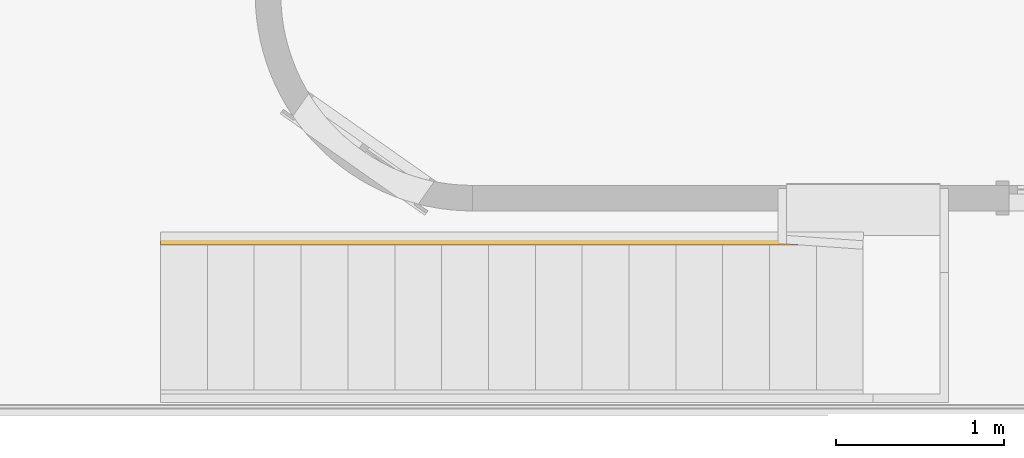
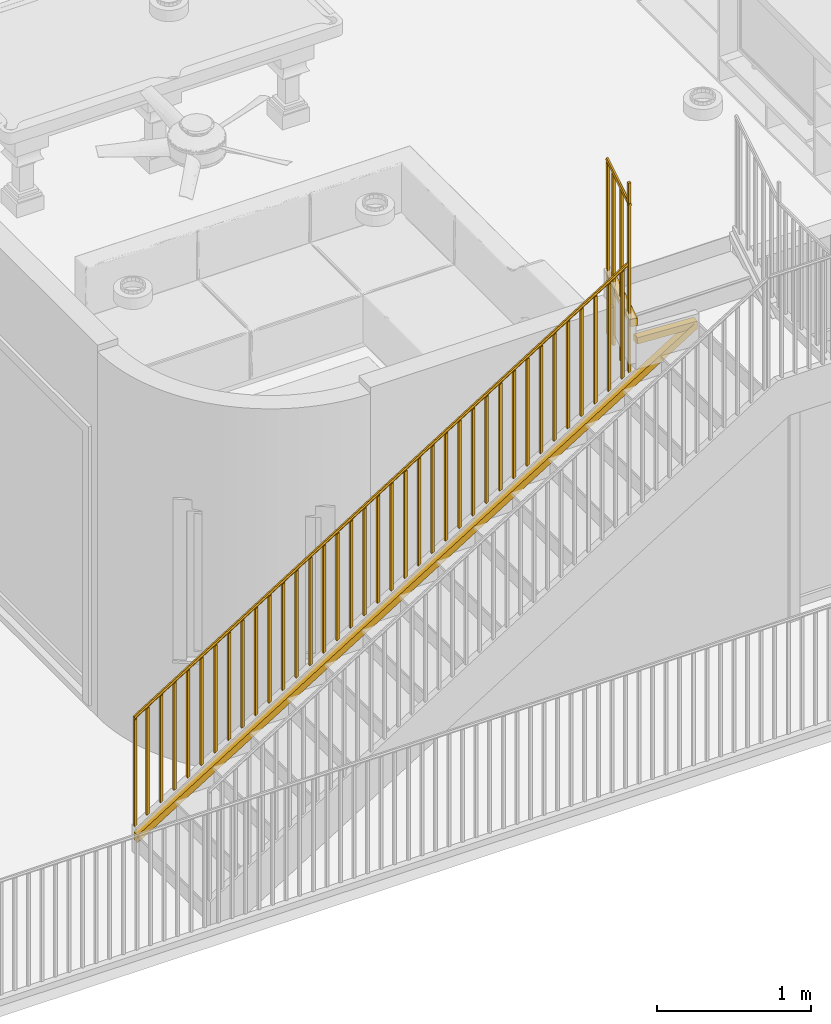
# One storey, part 10 of 21: 1 railing, 1 element without a shape of its own.
"""IFC2X3 building model written with IfcOpenShell, lengths in feet."""

from ifc_helpers import new_model, entity, si_unit, converted_unit, derived_unit, direction, frame, origin, place, context, subcontext, project, spatial, faceted_brep, element, aggregate, save


model = new_model("IFC2X3")

# Units and contexts
model_context = context("Model", 3, precision=0.0001, world=origin(), true_north=direction((6.12303176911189e-17, 1.0)))
body_context = subcontext(model_context, "Body", "Model", "MODEL_VIEW")
ifc_project = project(units=[converted_unit("LENGTHUNIT", "FOOT", entity("IfcRatioMeasure", 0.3048), si_unit("LENGTHUNIT", "METRE"), dimensions=[1, 0, 0, 0, 0, 0, 0]), converted_unit("AREAUNIT", "SQUARE FOOT", entity("IfcRatioMeasure", 0.09290304), si_unit("AREAUNIT", "SQUARE_METRE"), dimensions=[2, 0, 0, 0, 0, 0, 0]), converted_unit("VOLUMEUNIT", "CUBIC FOOT", entity("IfcRatioMeasure", 0.028316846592), si_unit("VOLUMEUNIT", "CUBIC_METRE"), dimensions=[3, 0, 0, 0, 0, 0, 0]), converted_unit("PLANEANGLEUNIT", "DEGREE", entity("IfcRatioMeasure", 0.0174532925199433), si_unit("PLANEANGLEUNIT", "RADIAN"), dimensions=[0, 0, 0, 0, 0, 0, 0]), si_unit("MASSUNIT", "GRAM", prefix="KILO"), derived_unit("MASSDENSITYUNIT", [(si_unit("MASSUNIT", "GRAM", prefix="KILO"), 1), (si_unit("LENGTHUNIT", "METRE"), -3)]), si_unit("TIMEUNIT", "SECOND"), si_unit("FREQUENCYUNIT", "HERTZ"), si_unit("THERMODYNAMICTEMPERATUREUNIT", "DEGREE_CELSIUS"), derived_unit("THERMALTRANSMITTANCEUNIT", [(si_unit("MASSUNIT", "GRAM", prefix="KILO"), 1), (si_unit("THERMODYNAMICTEMPERATUREUNIT", "KELVIN"), -1), (si_unit("TIMEUNIT", "SECOND"), -3)]), derived_unit("VOLUMETRICFLOWRATEUNIT", [(si_unit("LENGTHUNIT", "METRE"), 3), (si_unit("TIMEUNIT", "SECOND"), -1)]), si_unit("ELECTRICCURRENTUNIT", "AMPERE"), si_unit("ELECTRICVOLTAGEUNIT", "VOLT"), si_unit("POWERUNIT", "WATT"), si_unit("FORCEUNIT", "NEWTON"), si_unit("ILLUMINANCEUNIT", "LUX"), si_unit("LUMINOUSFLUXUNIT", "LUMEN"), si_unit("LUMINOUSINTENSITYUNIT", "CANDELA"), derived_unit("USERDEFINED", [(si_unit("MASSUNIT", "GRAM", prefix="KILO"), -1), (si_unit("LENGTHUNIT", "METRE"), -2), (si_unit("TIMEUNIT", "SECOND"), 3), (si_unit("LUMINOUSFLUXUNIT", "LUMEN"), 1)]), derived_unit("LINEARVELOCITYUNIT", [(si_unit("LENGTHUNIT", "METRE"), 1), (si_unit("TIMEUNIT", "SECOND"), -1)]), si_unit("PRESSUREUNIT", "PASCAL"), derived_unit("USERDEFINED", [(si_unit("LENGTHUNIT", "METRE"), -2), (si_unit("MASSUNIT", "GRAM", prefix="KILO"), 1), (si_unit("TIMEUNIT", "SECOND"), -2)])], contexts=[model_context])

# Site, building, storey
site_placement = place(None, origin())
site = spatial("IfcSite", under=ifc_project, at=site_placement, Name="表面", CompositionType="ELEMENT")
building_placement = place(site_placement, origin())
building = spatial("IfcBuilding", under=site, at=building_placement, CompositionType="ELEMENT")
storey_placement = place(building_placement, origin())
storey = spatial("IfcBuildingStorey", under=building, at=storey_placement, Name="Level 1", CompositionType="ELEMENT", Elevation=0.0)

# Stair, railing
stair_placement = place(storey_placement, origin())
stair = element("IfcStair", 1, at=stair_placement, inside=storey, Name="楼梯:7\" max riser 11\" tread", ObjectType="楼梯:7\" max riser 11\" tread", ShapeType="NOTDEFINED")
railing_placement = place(stair_placement, frame((-35.8869576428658, -14.0676063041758, 0.706570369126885)))
railing = element("IfcRailing", 2, at=railing_placement, Name="栏杆扶手:Handrail - Rectangular", ObjectType="栏杆扶手:Handrail - Rectangular", PredefinedType="NOTDEFINED", context=body_context, shape_type="Brep", body=[
    faceted_brep([(12.1354166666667, 0.802083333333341, 12.5910014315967), (12.1354166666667, 0.802083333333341, 8.16842963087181), (12.1979166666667, 0.802083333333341, 8.16842963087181), (12.1979166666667, 0.802083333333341, 12.5910014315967), (12.1354166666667, 0.864583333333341, 12.6298271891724), (12.1354166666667, 0.864583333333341, 8.16842963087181), (12.1979166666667, 0.864583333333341, 12.6298271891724), (12.1979166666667, 0.864583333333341, 8.16842963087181)], [[[0, 1, 2, 3]], [[4, 5, 1, 0]], [[6, 7, 5, 4]], [[3, 2, 7, 6]], [[3, 6, 4, 0]], [[1, 5, 7, 2]]]),
    faceted_brep([(12.1354166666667, 0.468750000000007, 12.383930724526), (12.1354166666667, 0.468750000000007, 7.96135892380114), (12.1979166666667, 0.468750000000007, 7.96135892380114), (12.1979166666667, 0.468750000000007, 12.383930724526), (12.1354166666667, 0.531250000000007, 12.4227564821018), (12.1354166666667, 0.531250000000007, 7.96135892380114), (12.1979166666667, 0.531250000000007, 12.4227564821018), (12.1979166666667, 0.531250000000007, 7.96135892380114)], [[[0, 1, 2, 3]], [[4, 5, 1, 0]], [[6, 7, 5, 4]], [[3, 2, 7, 6]], [[3, 6, 4, 0]], [[1, 5, 7, 2]]]),
    faceted_brep([(11.96875, 0.197916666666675, 10.5332362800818), (11.96875, 0.197916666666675, 7.76250446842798), (11.96875, 0.135416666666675, 7.76250446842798), (11.96875, 0.135416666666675, 10.5332362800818), (12.03125, 0.197916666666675, 10.5720620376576), (12.03125, 0.197916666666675, 7.80133022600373), (12.03125, 0.135416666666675, 10.5720620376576), (12.03125, 0.135416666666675, 7.80133022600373)], [[[0, 1, 2, 3]], [[4, 5, 1, 0]], [[6, 7, 5, 4]], [[3, 2, 7, 6]], [[3, 6, 4, 0]], [[1, 5, 7, 2]]]),
    faceted_brep([(11.6354166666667, 0.197916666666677, 10.3261655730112), (11.6354166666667, 0.197916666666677, 7.5554337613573), (11.6354166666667, 0.135416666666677, 7.5554337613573), (11.6354166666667, 0.135416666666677, 10.3261655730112), (11.6979166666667, 0.197916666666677, 10.3649913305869), (11.6979166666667, 0.197916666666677, 7.59425951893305), (11.6979166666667, 0.135416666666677, 10.3649913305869), (11.6979166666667, 0.135416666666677, 7.59425951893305)], [[[0, 1, 2, 3]], [[4, 5, 1, 0]], [[6, 7, 5, 4]], [[3, 2, 7, 6]], [[3, 6, 4, 0]], [[1, 5, 7, 2]]]),
    faceted_brep([(11.3020833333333, 0.197916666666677, 10.1190948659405), (11.3020833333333, 0.197916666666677, 7.34836305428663), (11.3020833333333, 0.135416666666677, 7.34836305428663), (11.3020833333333, 0.135416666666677, 10.1190948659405), (11.3645833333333, 0.197916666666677, 10.1579206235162), (11.3645833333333, 0.197916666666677, 7.38718881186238), (11.3645833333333, 0.135416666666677, 10.1579206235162), (11.3645833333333, 0.135416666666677, 7.38718881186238)], [[[0, 1, 2, 3]], [[4, 5, 1, 0]], [[6, 7, 5, 4]], [[3, 2, 7, 6]], [[3, 6, 4, 0]], [[1, 5, 7, 2]]]),
    faceted_brep([(10.96875, 0.197916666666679, 9.91202415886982), (10.96875, 0.197916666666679, 7.14129234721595), (10.96875, 0.135416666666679, 7.14129234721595), (10.96875, 0.135416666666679, 9.91202415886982), (11.03125, 0.197916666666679, 9.95084991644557), (11.03125, 0.197916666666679, 7.1801181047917), (11.03125, 0.135416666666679, 9.95084991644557), (11.03125, 0.135416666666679, 7.1801181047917)], [[[0, 1, 2, 3]], [[4, 5, 1, 0]], [[6, 7, 5, 4]], [[3, 2, 7, 6]], [[3, 6, 4, 0]], [[1, 5, 7, 2]]]),
    faceted_brep([(10.6354166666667, 0.197916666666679, 9.70495345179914), (10.6354166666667, 0.197916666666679, 6.93422164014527), (10.6354166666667, 0.135416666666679, 6.93422164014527), (10.6354166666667, 0.135416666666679, 9.70495345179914), (10.6979166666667, 0.197916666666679, 9.74377920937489), (10.6979166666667, 0.197916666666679, 6.97304739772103), (10.6979166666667, 0.135416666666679, 9.74377920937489), (10.6979166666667, 0.135416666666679, 6.97304739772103)], [[[0, 1, 2, 3]], [[4, 5, 1, 0]], [[6, 7, 5, 4]], [[3, 2, 7, 6]], [[3, 6, 4, 0]], [[1, 5, 7, 2]]]),
    faceted_brep([(10.3020833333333, 0.19791666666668, 9.49788274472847), (10.3020833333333, 0.19791666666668, 6.7271509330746), (10.3020833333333, 0.13541666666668, 6.7271509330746), (10.3020833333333, 0.13541666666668, 9.49788274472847), (10.3645833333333, 0.19791666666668, 9.53670850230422), (10.3645833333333, 0.19791666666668, 6.76597669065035), (10.3645833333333, 0.13541666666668, 9.53670850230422), (10.3645833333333, 0.13541666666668, 6.76597669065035)], [[[0, 1, 2, 3]], [[4, 5, 1, 0]], [[6, 7, 5, 4]], [[3, 2, 7, 6]], [[3, 6, 4, 0]], [[1, 5, 7, 2]]]),
    faceted_brep([(9.96875, 0.197916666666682, 9.29081203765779), (9.96875, 0.197916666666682, 6.52008022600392), (9.96875, 0.135416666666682, 6.52008022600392), (9.96875, 0.135416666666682, 9.29081203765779), (10.03125, 0.197916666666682, 9.32963779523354), (10.03125, 0.197916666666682, 6.55890598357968), (10.03125, 0.135416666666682, 9.32963779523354), (10.03125, 0.135416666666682, 6.55890598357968)], [[[0, 1, 2, 3]], [[4, 5, 1, 0]], [[6, 7, 5, 4]], [[3, 2, 7, 6]], [[3, 6, 4, 0]], [[1, 5, 7, 2]]]),
    faceted_brep([(9.63541666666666, 0.197916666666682, 9.08374133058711), (9.63541666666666, 0.197916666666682, 6.31300951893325), (9.63541666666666, 0.135416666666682, 6.31300951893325), (9.63541666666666, 0.135416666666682, 9.08374133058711), (9.69791666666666, 0.197916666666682, 9.12256708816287), (9.69791666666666, 0.197916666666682, 6.351835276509), (9.69791666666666, 0.135416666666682, 9.12256708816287), (9.69791666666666, 0.135416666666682, 6.351835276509)], [[[0, 1, 2, 3]], [[4, 5, 1, 0]], [[6, 7, 5, 4]], [[3, 2, 7, 6]], [[3, 6, 4, 0]], [[1, 5, 7, 2]]]),
    faceted_brep([(9.30208333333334, 0.197916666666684, 8.87667062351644), (9.30208333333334, 0.197916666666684, 6.10593881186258), (9.30208333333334, 0.135416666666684, 6.10593881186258), (9.30208333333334, 0.135416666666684, 8.87667062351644), (9.36458333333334, 0.197916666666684, 8.9154963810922), (9.36458333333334, 0.197916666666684, 6.14476456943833), (9.36458333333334, 0.135416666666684, 8.9154963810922), (9.36458333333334, 0.135416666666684, 6.14476456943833)], [[[0, 1, 2, 3]], [[4, 5, 1, 0]], [[6, 7, 5, 4]], [[3, 2, 7, 6]], [[3, 6, 4, 0]], [[1, 5, 7, 2]]]),
    faceted_brep([(8.96875, 0.197916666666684, 8.66959991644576), (8.96875, 0.197916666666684, 5.8988681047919), (8.96875, 0.135416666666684, 5.8988681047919), (8.96875, 0.135416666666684, 8.66959991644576), (9.03125, 0.197916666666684, 8.70842567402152), (9.03125, 0.197916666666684, 5.93769386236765), (9.03125, 0.135416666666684, 8.70842567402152), (9.03125, 0.135416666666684, 5.93769386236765)], [[[0, 1, 2, 3]], [[4, 5, 1, 0]], [[6, 7, 5, 4]], [[3, 2, 7, 6]], [[3, 6, 4, 0]], [[1, 5, 7, 2]]]),
    faceted_brep([(8.63541666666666, 0.197916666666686, 8.46252920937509), (8.63541666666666, 0.197916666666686, 5.69179739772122), (8.63541666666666, 0.135416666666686, 5.69179739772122), (8.63541666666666, 0.135416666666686, 8.46252920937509), (8.69791666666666, 0.197916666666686, 8.50135496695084), (8.69791666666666, 0.197916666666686, 5.73062315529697), (8.69791666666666, 0.135416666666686, 8.50135496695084), (8.69791666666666, 0.135416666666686, 5.73062315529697)], [[[0, 1, 2, 3]], [[4, 5, 1, 0]], [[6, 7, 5, 4]], [[3, 2, 7, 6]], [[3, 6, 4, 0]], [[1, 5, 7, 2]]]),
    faceted_brep([(8.30208333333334, 0.197916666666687, 8.25545850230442), (8.30208333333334, 0.197916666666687, 5.48472669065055), (8.30208333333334, 0.135416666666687, 5.48472669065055), (8.30208333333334, 0.135416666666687, 8.25545850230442), (8.36458333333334, 0.197916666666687, 8.29428425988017), (8.36458333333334, 0.197916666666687, 5.5235524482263), (8.36458333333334, 0.135416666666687, 8.29428425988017), (8.36458333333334, 0.135416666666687, 5.5235524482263)], [[[0, 1, 2, 3]], [[4, 5, 1, 0]], [[6, 7, 5, 4]], [[3, 2, 7, 6]], [[3, 6, 4, 0]], [[1, 5, 7, 2]]]),
    faceted_brep([(7.96875, 0.197916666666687, 8.04838779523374), (7.96875, 0.197916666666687, 5.27765598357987), (7.96875, 0.135416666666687, 5.27765598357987), (7.96875, 0.135416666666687, 8.04838779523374), (8.03125, 0.197916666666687, 8.08721355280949), (8.03125, 0.197916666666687, 5.31648174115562), (8.03125, 0.135416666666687, 8.08721355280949), (8.03125, 0.135416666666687, 5.31648174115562)], [[[0, 1, 2, 3]], [[4, 5, 1, 0]], [[6, 7, 5, 4]], [[3, 2, 7, 6]], [[3, 6, 4, 0]], [[1, 5, 7, 2]]]),
    faceted_brep([(7.63541666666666, 0.197916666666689, 7.84131708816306), (7.63541666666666, 0.197916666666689, 5.07058527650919), (7.63541666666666, 0.135416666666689, 5.07058527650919), (7.63541666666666, 0.135416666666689, 7.84131708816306), (7.69791666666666, 0.197916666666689, 7.88014284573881), (7.69791666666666, 0.197916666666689, 5.10941103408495), (7.69791666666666, 0.135416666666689, 7.88014284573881), (7.69791666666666, 0.135416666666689, 5.10941103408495)], [[[0, 1, 2, 3]], [[4, 5, 1, 0]], [[6, 7, 5, 4]], [[3, 2, 7, 6]], [[3, 6, 4, 0]], [[1, 5, 7, 2]]]),
    faceted_brep([(7.30208333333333, 0.197916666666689, 7.63424638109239), (7.30208333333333, 0.197916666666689, 4.86351456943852), (7.30208333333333, 0.135416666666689, 4.86351456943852), (7.30208333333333, 0.135416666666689, 7.63424638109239), (7.36458333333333, 0.197916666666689, 7.67307213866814), (7.36458333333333, 0.197916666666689, 4.90234032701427), (7.36458333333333, 0.135416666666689, 7.67307213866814), (7.36458333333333, 0.135416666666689, 4.90234032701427)], [[[0, 1, 2, 3]], [[4, 5, 1, 0]], [[6, 7, 5, 4]], [[3, 2, 7, 6]], [[3, 6, 4, 0]], [[1, 5, 7, 2]]]),
    faceted_brep([(6.96875, 0.197916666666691, 7.42717567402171), (6.96875, 0.197916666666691, 4.65644386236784), (6.96875, 0.135416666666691, 4.65644386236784), (6.96875, 0.135416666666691, 7.42717567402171), (7.03125, 0.197916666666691, 7.46600143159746), (7.03125, 0.197916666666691, 4.6952696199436), (7.03125, 0.135416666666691, 7.46600143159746), (7.03125, 0.135416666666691, 4.6952696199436)], [[[0, 1, 2, 3]], [[4, 5, 1, 0]], [[6, 7, 5, 4]], [[3, 2, 7, 6]], [[3, 6, 4, 0]], [[1, 5, 7, 2]]]),
    faceted_brep([(6.63541666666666, 0.197916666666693, 7.22010496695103), (6.63541666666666, 0.197916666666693, 4.44937315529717), (6.63541666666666, 0.135416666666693, 4.44937315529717), (6.63541666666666, 0.135416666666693, 7.22010496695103), (6.69791666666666, 0.197916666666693, 7.25893072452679), (6.69791666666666, 0.197916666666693, 4.48819891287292), (6.69791666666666, 0.135416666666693, 7.25893072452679), (6.69791666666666, 0.135416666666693, 4.48819891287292)], [[[0, 1, 2, 3]], [[4, 5, 1, 0]], [[6, 7, 5, 4]], [[3, 2, 7, 6]], [[3, 6, 4, 0]], [[1, 5, 7, 2]]]),
    faceted_brep([(6.30208333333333, 0.197916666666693, 7.01303425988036), (6.30208333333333, 0.197916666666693, 4.24230244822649), (6.30208333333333, 0.135416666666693, 4.24230244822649), (6.30208333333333, 0.135416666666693, 7.01303425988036), (6.36458333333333, 0.197916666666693, 7.05186001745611), (6.36458333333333, 0.197916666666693, 4.28112820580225), (6.36458333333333, 0.135416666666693, 7.05186001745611), (6.36458333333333, 0.135416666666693, 4.28112820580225)], [[[0, 1, 2, 3]], [[4, 5, 1, 0]], [[6, 7, 5, 4]], [[3, 2, 7, 6]], [[3, 6, 4, 0]], [[1, 5, 7, 2]]]),
    faceted_brep([(5.96875, 0.197916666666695, 6.80596355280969), (5.96875, 0.197916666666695, 4.03523174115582), (5.96875, 0.135416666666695, 4.03523174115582), (5.96875, 0.135416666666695, 6.80596355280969), (6.03125, 0.197916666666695, 6.84478931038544), (6.03125, 0.197916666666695, 4.07405749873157), (6.03125, 0.135416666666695, 6.84478931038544), (6.03125, 0.135416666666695, 4.07405749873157)], [[[0, 1, 2, 3]], [[4, 5, 1, 0]], [[6, 7, 5, 4]], [[3, 2, 7, 6]], [[3, 6, 4, 0]], [[1, 5, 7, 2]]]),
    faceted_brep([(5.63541666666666, 0.197916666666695, 6.59889284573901), (5.63541666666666, 0.197916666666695, 3.82816103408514), (5.63541666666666, 0.135416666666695, 3.82816103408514), (5.63541666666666, 0.135416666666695, 6.59889284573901), (5.69791666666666, 0.197916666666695, 6.63771860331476), (5.69791666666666, 0.197916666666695, 3.86698679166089), (5.69791666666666, 0.135416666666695, 6.63771860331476), (5.69791666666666, 0.135416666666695, 3.86698679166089)], [[[0, 1, 2, 3]], [[4, 5, 1, 0]], [[6, 7, 5, 4]], [[3, 2, 7, 6]], [[3, 6, 4, 0]], [[1, 5, 7, 2]]]),
    faceted_brep([(5.30208333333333, 0.197916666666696, 6.39182213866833), (5.30208333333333, 0.197916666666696, 3.62109032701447), (5.30208333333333, 0.135416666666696, 3.62109032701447), (5.30208333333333, 0.135416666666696, 6.39182213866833), (5.36458333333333, 0.197916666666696, 6.43064789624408), (5.36458333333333, 0.197916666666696, 3.65991608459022), (5.36458333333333, 0.135416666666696, 6.43064789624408), (5.36458333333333, 0.135416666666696, 3.65991608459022)], [[[0, 1, 2, 3]], [[4, 5, 1, 0]], [[6, 7, 5, 4]], [[3, 2, 7, 6]], [[3, 6, 4, 0]], [[1, 5, 7, 2]]]),
    faceted_brep([(4.96875, 0.197916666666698, 6.18475143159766), (4.96875, 0.197916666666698, 3.41401961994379), (4.96875, 0.135416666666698, 3.41401961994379), (4.96875, 0.135416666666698, 6.18475143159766), (5.03125, 0.197916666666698, 6.22357718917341), (5.03125, 0.197916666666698, 3.45284537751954), (5.03125, 0.135416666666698, 6.22357718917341), (5.03125, 0.135416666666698, 3.45284537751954)], [[[0, 1, 2, 3]], [[4, 5, 1, 0]], [[6, 7, 5, 4]], [[3, 2, 7, 6]], [[3, 6, 4, 0]], [[1, 5, 7, 2]]]),
    faceted_brep([(4.63541666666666, 0.197916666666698, 5.97768072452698), (4.63541666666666, 0.197916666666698, 3.20694891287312), (4.63541666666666, 0.135416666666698, 3.20694891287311), (4.63541666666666, 0.135416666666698, 5.97768072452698), (4.69791666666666, 0.197916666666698, 6.01650648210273), (4.69791666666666, 0.197916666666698, 3.24577467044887), (4.69791666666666, 0.135416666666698, 6.01650648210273), (4.69791666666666, 0.135416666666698, 3.24577467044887)], [[[0, 1, 2, 3]], [[4, 5, 1, 0]], [[6, 7, 5, 4]], [[3, 2, 7, 6]], [[3, 6, 4, 0]], [[1, 5, 7, 2]]]),
    faceted_brep([(4.30208333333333, 0.1979166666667, 5.77061001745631), (4.30208333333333, 0.1979166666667, 2.99987820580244), (4.30208333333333, 0.1354166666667, 2.99987820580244), (4.30208333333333, 0.1354166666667, 5.77061001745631), (4.36458333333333, 0.1979166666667, 5.80943577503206), (4.36458333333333, 0.1979166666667, 3.03870396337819), (4.36458333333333, 0.1354166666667, 5.80943577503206), (4.36458333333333, 0.1354166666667, 3.03870396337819)], [[[0, 1, 2, 3]], [[4, 5, 1, 0]], [[6, 7, 5, 4]], [[3, 2, 7, 6]], [[3, 6, 4, 0]], [[1, 5, 7, 2]]]),
    faceted_brep([(3.96875, 0.1979166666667, 5.56353931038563), (3.96875, 0.1979166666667, 2.79280749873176), (3.96875, 0.1354166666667, 2.79280749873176), (3.96875, 0.1354166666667, 5.56353931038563), (4.03125, 0.1979166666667, 5.60236506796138), (4.03125, 0.1979166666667, 2.83163325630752), (4.03125, 0.1354166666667, 5.60236506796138), (4.03125, 0.1354166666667, 2.83163325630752)], [[[0, 1, 2, 3]], [[4, 5, 1, 0]], [[6, 7, 5, 4]], [[3, 2, 7, 6]], [[3, 6, 4, 0]], [[1, 5, 7, 2]]]),
    faceted_brep([(3.63541666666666, 0.197916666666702, 5.35646860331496), (3.63541666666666, 0.197916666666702, 2.58573679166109), (3.63541666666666, 0.135416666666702, 2.58573679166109), (3.63541666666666, 0.135416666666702, 5.35646860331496), (3.69791666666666, 0.197916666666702, 5.39529436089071), (3.69791666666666, 0.197916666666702, 2.62456254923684), (3.69791666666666, 0.135416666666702, 5.39529436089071), (3.69791666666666, 0.135416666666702, 2.62456254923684)], [[[0, 1, 2, 3]], [[4, 5, 1, 0]], [[6, 7, 5, 4]], [[3, 2, 7, 6]], [[3, 6, 4, 0]], [[1, 5, 7, 2]]]),
    faceted_brep([(3.30208333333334, 0.197916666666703, 5.14939789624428), (3.30208333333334, 0.197916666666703, 2.37866608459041), (3.30208333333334, 0.135416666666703, 2.37866608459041), (3.30208333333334, 0.135416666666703, 5.14939789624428), (3.36458333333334, 0.197916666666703, 5.18822365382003), (3.36458333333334, 0.197916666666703, 2.41749184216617), (3.36458333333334, 0.135416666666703, 5.18822365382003), (3.36458333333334, 0.135416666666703, 2.41749184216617)], [[[0, 1, 2, 3]], [[4, 5, 1, 0]], [[6, 7, 5, 4]], [[3, 2, 7, 6]], [[3, 6, 4, 0]], [[1, 5, 7, 2]]]),
    faceted_brep([(2.96875, 0.197916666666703, 4.94232718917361), (2.96875, 0.197916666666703, 2.17159537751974), (2.96875, 0.135416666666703, 2.17159537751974), (2.96875, 0.135416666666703, 4.94232718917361), (3.03125, 0.197916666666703, 4.98115294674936), (3.03125, 0.197916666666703, 2.21042113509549), (3.03125, 0.135416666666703, 4.98115294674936), (3.03125, 0.135416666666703, 2.21042113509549)], [[[0, 1, 2, 3]], [[4, 5, 1, 0]], [[6, 7, 5, 4]], [[3, 2, 7, 6]], [[3, 6, 4, 0]], [[1, 5, 7, 2]]]),
    faceted_brep([(2.63541666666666, 0.197916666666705, 4.73525648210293), (2.63541666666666, 0.197916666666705, 1.96452467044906), (2.63541666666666, 0.135416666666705, 1.96452467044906), (2.63541666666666, 0.135416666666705, 4.73525648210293), (2.69791666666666, 0.197916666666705, 4.77408223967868), (2.69791666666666, 0.197916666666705, 2.00335042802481), (2.69791666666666, 0.135416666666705, 4.77408223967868), (2.69791666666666, 0.135416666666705, 2.00335042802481)], [[[0, 1, 2, 3]], [[4, 5, 1, 0]], [[6, 7, 5, 4]], [[3, 2, 7, 6]], [[3, 6, 4, 0]], [[1, 5, 7, 2]]]),
    faceted_brep([(2.30208333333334, 0.197916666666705, 4.52818577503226), (2.30208333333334, 0.197916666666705, 1.75745396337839), (2.30208333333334, 0.135416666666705, 1.75745396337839), (2.30208333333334, 0.135416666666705, 4.52818577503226), (2.36458333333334, 0.197916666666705, 4.56701153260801), (2.36458333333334, 0.197916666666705, 1.79627972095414), (2.36458333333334, 0.135416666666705, 4.56701153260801), (2.36458333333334, 0.135416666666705, 1.79627972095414)], [[[0, 1, 2, 3]], [[4, 5, 1, 0]], [[6, 7, 5, 4]], [[3, 2, 7, 6]], [[3, 6, 4, 0]], [[1, 5, 7, 2]]]),
    faceted_brep([(1.96875, 0.197916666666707, 4.32111506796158), (1.96875, 0.197916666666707, 1.55038325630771), (1.96875, 0.135416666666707, 1.55038325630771), (1.96875, 0.135416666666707, 4.32111506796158), (2.03125, 0.197916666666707, 4.35994082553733), (2.03125, 0.197916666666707, 1.58920901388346), (2.03125, 0.135416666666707, 4.35994082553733), (2.03125, 0.135416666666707, 1.58920901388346)], [[[0, 1, 2, 3]], [[4, 5, 1, 0]], [[6, 7, 5, 4]], [[3, 2, 7, 6]], [[3, 6, 4, 0]], [[1, 5, 7, 2]]]),
    faceted_brep([(1.63541666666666, 0.197916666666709, 4.1140443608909), (1.63541666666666, 0.197916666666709, 1.34331254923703), (1.63541666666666, 0.135416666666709, 1.34331254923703), (1.63541666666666, 0.135416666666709, 4.1140443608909), (1.69791666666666, 0.197916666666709, 4.15287011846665), (1.69791666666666, 0.197916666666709, 1.38213830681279), (1.69791666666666, 0.135416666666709, 4.15287011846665), (1.69791666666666, 0.135416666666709, 1.38213830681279)], [[[0, 1, 2, 3]], [[4, 5, 1, 0]], [[6, 7, 5, 4]], [[3, 2, 7, 6]], [[3, 6, 4, 0]], [[1, 5, 7, 2]]]),
    faceted_brep([(1.30208333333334, 0.197916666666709, 3.90697365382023), (1.30208333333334, 0.197916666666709, 1.13624184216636), (1.30208333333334, 0.135416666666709, 1.13624184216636), (1.30208333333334, 0.135416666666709, 3.90697365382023), (1.36458333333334, 0.197916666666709, 3.94579941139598), (1.36458333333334, 0.197916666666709, 1.17506759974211), (1.36458333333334, 0.135416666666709, 3.94579941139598), (1.36458333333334, 0.135416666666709, 1.17506759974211)], [[[0, 1, 2, 3]], [[4, 5, 1, 0]], [[6, 7, 5, 4]], [[3, 2, 7, 6]], [[3, 6, 4, 0]], [[1, 5, 7, 2]]]),
    faceted_brep([(0.96875, 0.19791666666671, 3.69990294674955), (0.96875, 0.19791666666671, 0.929171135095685), (0.96875, 0.13541666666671, 0.929171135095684), (0.96875, 0.13541666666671, 3.69990294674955), (1.03125, 0.19791666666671, 3.7387287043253), (1.03125, 0.19791666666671, 0.967996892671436), (1.03125, 0.13541666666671, 3.7387287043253), (1.03125, 0.13541666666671, 0.967996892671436)], [[[0, 1, 2, 3]], [[4, 5, 1, 0]], [[6, 7, 5, 4]], [[3, 2, 7, 6]], [[3, 6, 4, 0]], [[1, 5, 7, 2]]]),
    faceted_brep([(0.635416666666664, 0.19791666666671, 3.49283223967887), (0.635416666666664, 0.19791666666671, 0.722100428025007), (0.635416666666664, 0.13541666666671, 0.722100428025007), (0.635416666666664, 0.13541666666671, 3.49283223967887), (0.697916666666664, 0.19791666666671, 3.53165799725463), (0.697916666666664, 0.19791666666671, 0.760926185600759), (0.697916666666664, 0.13541666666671, 3.53165799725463), (0.697916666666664, 0.13541666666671, 0.760926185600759)], [[[0, 1, 2, 3]], [[4, 5, 1, 0]], [[6, 7, 5, 4]], [[3, 2, 7, 6]], [[3, 6, 4, 0]], [[1, 5, 7, 2]]]),
    faceted_brep([(0.302083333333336, 0.197916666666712, 3.2857615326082), (0.302083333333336, 0.197916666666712, 0.515029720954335), (0.302083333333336, 0.135416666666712, 0.515029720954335), (0.302083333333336, 0.135416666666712, 3.2857615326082), (0.364583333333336, 0.197916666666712, 3.32458729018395), (0.364583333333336, 0.197916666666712, 0.553855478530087), (0.364583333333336, 0.135416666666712, 3.32458729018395), (0.364583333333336, 0.135416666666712, 0.553855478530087)], [[[0, 1, 2, 3]], [[4, 5, 1, 0]], [[6, 7, 5, 4]], [[3, 2, 7, 6]], [[3, 6, 4, 0]], [[1, 5, 7, 2]]]),
    faceted_brep([(12.1354166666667, 0.135416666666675, 12.7943766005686), (12.1354166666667, 0.135416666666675, 7.86603982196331), (12.1979166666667, 0.135416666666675, 7.86603982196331), (12.1979166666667, 0.135416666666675, 12.7943766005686), (12.1354166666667, 0.197916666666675, 12.7943766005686), (12.1354166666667, 0.197916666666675, 7.90486557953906), (12.1979166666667, 0.197916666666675, 12.7943766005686), (12.1979166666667, 0.197916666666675, 7.90486557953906)], [[[0, 1, 2, 3]], [[4, 5, 1, 0]], [[6, 7, 5, 4]], [[3, 2, 7, 6]], [[3, 6, 4, 0]], [[1, 5, 7, 2]]]),
    faceted_brep([(12.1354166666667, 1.04166666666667, 12.7398335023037), (12.1354166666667, 1.04166666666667, 8.31726170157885), (12.1979166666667, 1.04166666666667, 8.31726170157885), (12.1979166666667, 1.04166666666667, 12.7398335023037), (12.1354166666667, 1.10416666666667, 12.7786592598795), (12.1354166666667, 1.10416666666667, 8.31726170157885), (12.1979166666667, 1.10416666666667, 12.7786592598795), (12.1979166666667, 1.10416666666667, 8.31726170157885)], [[[0, 1, 2, 3]], [[4, 5, 1, 0]], [[6, 7, 5, 4]], [[3, 2, 7, 6]], [[3, 6, 4, 0]], [[1, 5, 7, 2]]]),
    faceted_brep([(0.0, 0.197916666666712, 3.0981037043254), (0.0, 0.197916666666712, 0.327371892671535), (0.0, 0.135416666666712, 0.327371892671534), (0.0, 0.135416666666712, 3.0981037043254), (0.0625, 0.197916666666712, 3.13692946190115), (0.0625, 0.197916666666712, 0.366197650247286), (0.0625, 0.135416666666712, 3.13692946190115), (0.0625, 0.135416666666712, 0.366197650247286)], [[[0, 1, 2, 3]], [[4, 5, 1, 0]], [[6, 7, 5, 4]], [[3, 2, 7, 6]], [[3, 6, 4, 0]], [[1, 5, 7, 2]]]),
    faceted_brep([(0.0, 0.0, 0.196207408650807), (0.0, 0.166666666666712, 0.196207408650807), (0.0, 0.166666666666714, 0.0), (0.0, 0.0, 0.0), (13.744212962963, 0.0, 8.73427909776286), (13.744212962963, 0.0, 8.53807168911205), (13.755787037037, 0.16666666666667, 8.54526164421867), (13.755787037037, 0.16666666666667, 8.74146905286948)], [[[0, 1, 2, 3]], [[4, 5, 6, 7]], [[1, 0, 4, 7]], [[2, 1, 7, 6]], [[3, 2, 6, 5]], [[0, 3, 5, 4]]]),
    faceted_brep([(13.7557731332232, 0.16646645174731, 8.73787407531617), (13.7442268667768, 0.000200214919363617, 8.73787407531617), (13.7442268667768, 0.000200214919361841, 8.5712074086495), (13.7557731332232, 0.166466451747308, 8.5712074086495), (12.3333333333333, 0.265246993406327, 8.73787407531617), (12.3333333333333, 0.265246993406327, 8.5712074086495), (12.3333333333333, 0.0981789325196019, 8.5712074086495), (12.3333333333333, 0.0981789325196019, 8.73787407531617)], [[[0, 1, 2, 3]], [[4, 5, 6, 7]], [[1, 0, 4, 7]], [[2, 1, 7, 6]], [[3, 2, 6, 5]], [[0, 3, 5, 4]]]),
    faceted_brep([(12.3333333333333, 0.0981789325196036, 9.2518311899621), (12.1666666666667, 0.109753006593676, 9.25902114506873), (12.1666666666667, 0.109753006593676, 9.06281373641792), (12.3333333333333, 0.0981789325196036, 9.0556237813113), (12.3333333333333, 1.10416666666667, 9.87676296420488), (12.3333333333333, 1.10416666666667, 9.68055555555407), (12.1666666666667, 1.10416666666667, 9.68055555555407), (12.1666666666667, 1.10416666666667, 9.87676296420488)], [[[0, 1, 2, 3]], [[4, 5, 6, 7]], [[1, 0, 4, 7]], [[2, 1, 7, 6]], [[3, 2, 6, 5]], [[0, 3, 5, 4]]]),
    faceted_brep([(0.0, 0.20833333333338, 3.14715555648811), (0.0, 0.187500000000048, 3.10467540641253), (0.0, 0.14583333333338, 3.10467540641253), (0.0, 0.125000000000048, 3.14715555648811), (0.0, 0.14583333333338, 3.18963570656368), (0.0, 0.187500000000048, 3.18963570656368), (12.125, 0.145833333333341, 10.7218326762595), (12.125, 0.125000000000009, 10.6793525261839), (12.125, 0.145833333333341, 10.6368723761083), (12.125, 0.187500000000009, 10.6368723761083), (12.125, 0.208333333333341, 10.6793525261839), (12.125, 0.187500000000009, 10.7218326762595)], [[[0, 1, 2, 3, 4, 5]], [[6, 7, 8, 9, 10, 11]], [[7, 6, 4, 3]], [[6, 11, 5, 4]], [[11, 10, 0, 5]], [[10, 9, 1, 0]], [[9, 8, 2, 1]], [[8, 7, 3, 2]]]),
    faceted_brep([(12.1927083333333, 0.125000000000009, 12.1875807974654), (12.1979166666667, 0.125000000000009, 12.1982008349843), (12.203125, 0.125000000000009, 12.2088208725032), (12.2083333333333, 0.125000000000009, 12.2194409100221), (12.2035225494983, 0.125000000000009, 12.2292503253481), (12.1987117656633, 0.125000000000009, 12.2390597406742), (12.1931058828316, 0.125000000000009, 12.2504904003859), (12.1875, 0.125000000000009, 12.2619210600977), (12.1770833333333, 0.125000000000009, 12.2619210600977), (12.1666666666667, 0.125000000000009, 12.2619210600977), (12.15625, 0.125000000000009, 12.2619210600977), (12.1458333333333, 0.125000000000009, 12.2619210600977), (12.140625, 0.125000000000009, 12.2513010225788), (12.1354166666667, 0.125000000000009, 12.2406809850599), (12.129810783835, 0.125000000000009, 12.2292503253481), (12.125, 0.125000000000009, 12.2194409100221), (12.1302083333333, 0.125000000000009, 12.2088208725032), (12.1354166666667, 0.125000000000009, 12.1982008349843), (12.140625, 0.125000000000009, 12.1875807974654), (12.1458333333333, 0.125000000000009, 12.1769607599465), (12.15625, 0.125000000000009, 12.1769607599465), (12.1666666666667, 0.125000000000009, 12.1769607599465), (12.1770833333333, 0.125000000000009, 12.1769607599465), (12.1875, 0.125000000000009, 12.1769607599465), (12.1458333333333, 1.10416666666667, 12.7852309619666), (12.1402274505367, 1.10416666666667, 12.796661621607), (12.13462156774, 1.10416666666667, 12.8080922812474), (12.12981078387, 1.10416666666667, 12.8179016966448), (12.125, 1.10416666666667, 12.8277111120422), (12.1302083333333, 1.10416666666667, 12.8383311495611), (12.1354166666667, 1.10416666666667, 12.84895118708), (12.140625, 1.10416666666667, 12.8595712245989), (12.1458333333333, 1.10416666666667, 12.8701912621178), (12.15625, 1.10416666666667, 12.8701912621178), (12.1666666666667, 1.10416666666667, 12.8701912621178), (12.1770833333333, 1.10416666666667, 12.8701912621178), (12.1875, 1.10416666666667, 12.8701912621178), (12.1927083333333, 1.10416666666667, 12.8595712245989), (12.1979166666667, 1.10416666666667, 12.84895118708), (12.203125, 1.10416666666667, 12.8383311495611), (12.2083333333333, 1.10416666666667, 12.8277111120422), (12.2035225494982, 1.10416666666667, 12.8179016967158), (12.1979166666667, 1.10416666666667, 12.8064710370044), (12.1927083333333, 1.10416666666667, 12.7958509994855), (12.1875, 1.10416666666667, 12.7852309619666), (12.1770833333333, 1.10416666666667, 12.7852309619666), (12.1666666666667, 1.10416666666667, 12.7852309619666), (12.15625, 1.10416666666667, 12.7852309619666)], [[[0, 1, 2, 3, 4, 5, 6, 7, 8, 9, 10, 11, 12, 13, 14, 15, 16, 17, 18, 19, 20, 21, 22, 23]], [[24, 25, 26, 27, 28, 29, 30, 31, 32, 33, 34, 35, 36, 37, 38, 39, 40, 41, 42, 43, 44, 45, 46, 47]], [[5, 4, 3, 40, 39, 38, 37, 36, 7, 6]], [[13, 12, 11, 32, 31, 30, 29, 28, 15, 14]], [[9, 8, 7, 36, 35, 34, 33, 32, 11, 10]], [[17, 16, 15, 28, 27, 26, 25, 24, 19, 18]], [[46, 45, 44, 23, 22, 21, 20, 19, 24, 47]], [[1, 0, 23, 44, 43, 42, 41, 40, 3, 2]]]),
])
aggregate(stair, [railing])

save(model, "model.ifc")
